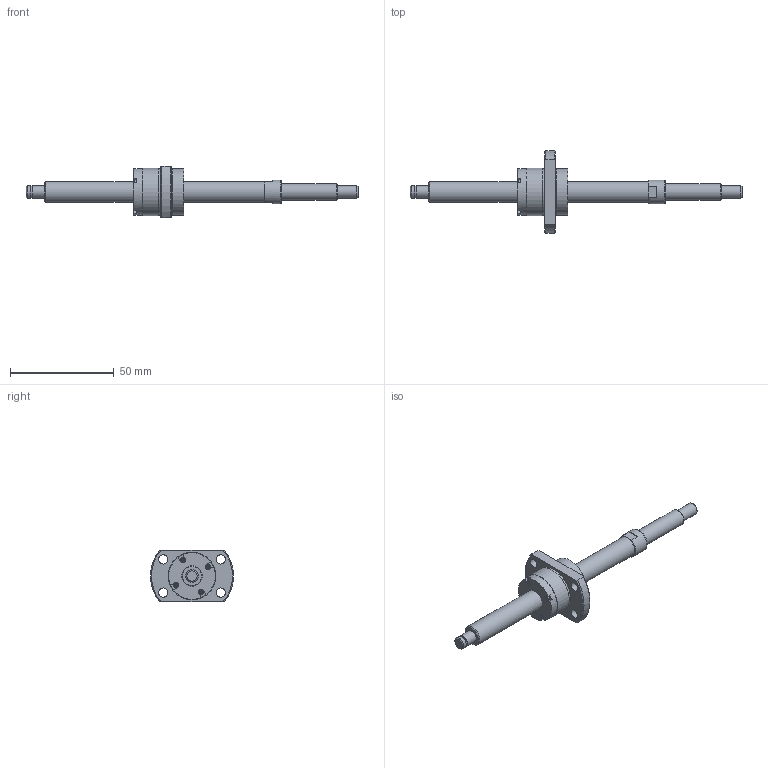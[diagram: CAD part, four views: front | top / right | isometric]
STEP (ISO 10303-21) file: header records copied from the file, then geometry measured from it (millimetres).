
FILE_DESCRIPTION(/* description */ ('STEP AP214'),/* implementation_level */ '2;1');
FILE_NAME(/* name */ 'SG1010-101R160C5B0X(43)',/* time_stamp */ '2026-07-24T15:17:06+02:00',/* author */ ('License CC BY-ND 4.0'),/* organization */ ('CADENAS'),/* preprocessor_version */ 'ST-DEVELOPER v20',/* originating_system */ 'PARTsolutions',/* authorisation */ ' ');
FILE_SCHEMA (('AUTOMOTIVE_DESIGN {1 0 10303 214 3 1 1}'));
Length unit declared in the file: millimetre
Products named in the file (3): SG1010-101R160C5B0X(43); SG1010-101R160C5B_shaft; SG1010 C5_nut
Assembly tree (2 placements, depth 2):
  SG1010-101R160C5B0X(43)
    SG1010-101R160C5B_shaft
    SG1010 C5_nut
Bounding box: 160 x 40 x 25 mm (x, y, z)
Volume: 21127.4 mm3; surface area: 9461.8 mm2
Topology: 2 solids, 2 shells, 107 faces, 242 edges, 157 vertices
Faces by surface type: plane 66, cylinder 27, cone 13, torus 1
Full cylindrical faces by diameter (mm): 2.25 x2, 2.5 x2, 4.5 x4, 5.7 x1, 6 x3, 8 x1, 10 x2, 11.5 x1, 22.5 x3, 23 x2
Entity records: 2921 total; most frequent: DIRECTION 500, CARTESIAN_POINT 498, ORIENTED_EDGE 418, EDGE_CURVE 209, AXIS2_PLACEMENT_3D 189, EDGE_LOOP 166, FACE_BOUND 166, VERTEX_POINT 155
